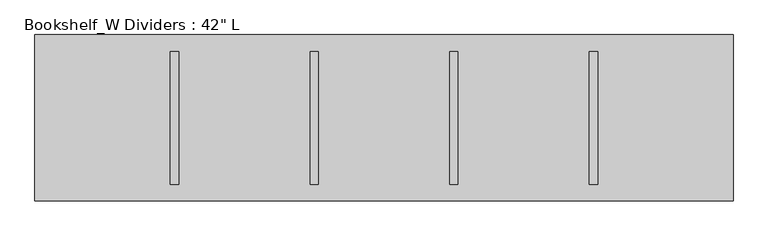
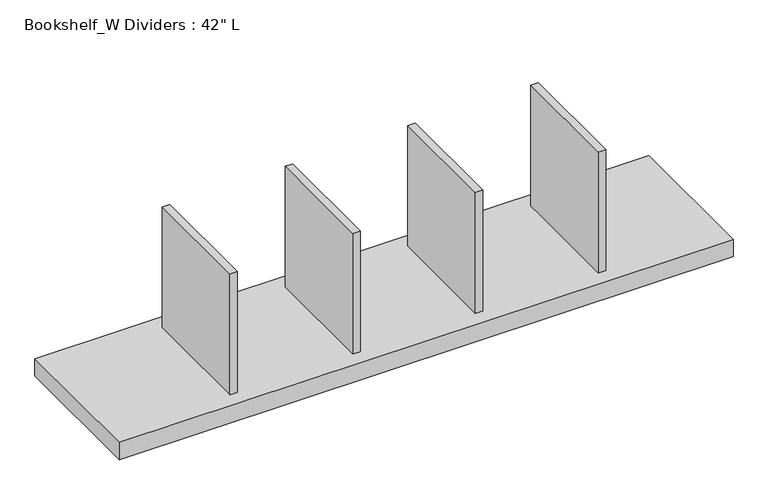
"""IFC4 building model written with IfcOpenShell, lengths in millimetres: furniture geometry."""

from ifc_helpers import new_model, si_unit, frame, origin, place, context, project, spatial, polyline, outline, extrude, source, transform, mapped, element, save


def furniture_e8b98096(model_context):
    return source(origin(), model_context, "Body", "SweptSolid", [
        extrude(outline(polyline([(219.71, 228.6), (219.71, 25.4), (207.01, 25.4), (207.01, 228.6), (219.71, 228.6)])), frame((0.0, 0.0, 1555.75), z_axis=(0.0, 0.0, 1.0), x_axis=(1.0, 0.0, 0.0)), (0.0, 0.0, 1.0), 222.25),
        extrude(outline(polyline([(433.07, 228.6), (433.07, 25.4), (420.37, 25.4), (420.37, 228.6), (433.07, 228.6)])), frame((0.0, 0.0, 1555.75), z_axis=(0.0, 0.0, 1.0), x_axis=(1.0, 0.0, 0.0)), (0.0, 0.0, 1.0), 222.25),
        extrude(outline(polyline([(646.43, 228.6), (646.43, 25.4), (633.73, 25.4), (633.73, 228.6), (646.43, 228.6)])), frame((0.0, 0.0, 1555.75), z_axis=(0.0, 0.0, 1.0), x_axis=(1.0, 0.0, 0.0)), (0.0, 0.0, 1.0), 222.25),
        extrude(outline(polyline([(859.79, 228.6), (859.79, 25.4), (847.09, 25.4), (847.09, 228.6), (859.79, 228.6)])), frame((0.0, 0.0, 1555.75), z_axis=(0.0, 0.0, 1.0), x_axis=(1.0, 0.0, 0.0)), (0.0, 0.0, 1.0), 222.25),
        extrude(outline(polyline([(1066.8, 254.0), (1066.8, 0.0), (0.0, 0.0), (0.0, 254.0), (1066.8, 254.0)])), frame((0.0, 0.0, 1524.0), z_axis=(0.0, 0.0, 1.0), x_axis=(1.0, 0.0, 0.0)), (0.0, 0.0, 1.0), 31.75),
    ])


if __name__ == "__main__":
    model = new_model("IFC4")
    model_context = context("Model", 3, world=origin())
    ifc_project = project(units=[si_unit("LENGTHUNIT", "METRE", prefix="MILLI")], contexts=[model_context])
    site = spatial("IfcSite", under=ifc_project)
    building = spatial("IfcBuilding", under=site)
    placement = place(None, origin())
    furniture_shape = furniture_e8b98096(model_context)
    element("IfcFurniture", 1, ObjectType="Bookshelf_W Dividers : 42\" L", at=placement, inside=building, context=model_context, shape_type="MappedRepresentation", body=[
        mapped(furniture_shape, transform((0.0, 0.0, 0.0), x_axis=(1.0, 0.0, 0.0), y_axis=(0.0, 1.0, 0.0), z_axis=(0.0, 0.0, 1.0))),
    ])
    save(model, "model.ifc")
